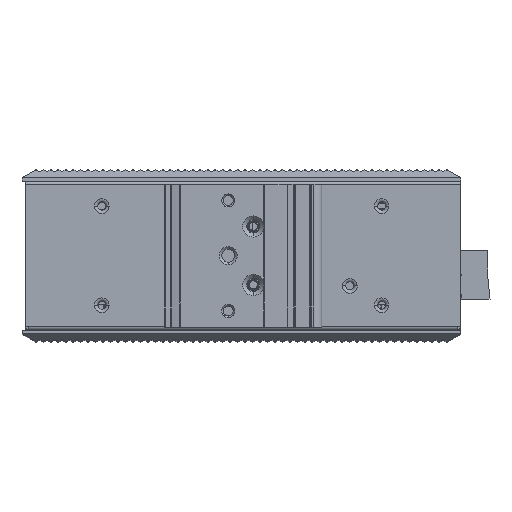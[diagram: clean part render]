
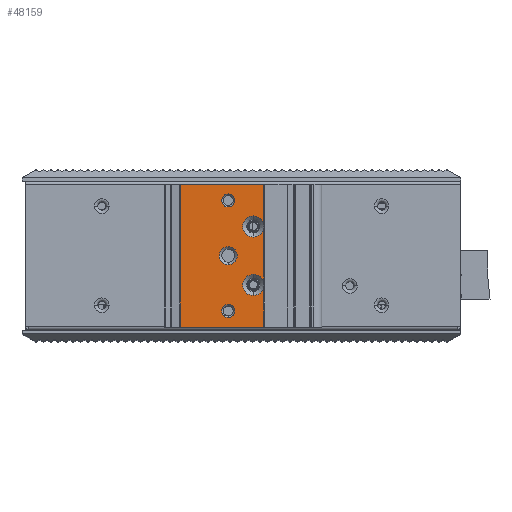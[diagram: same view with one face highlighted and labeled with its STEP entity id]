
A CAD part, top view. The second image highlights one B-rep face of the part: STEP entity #48159.
In plain terms, the highlighted planar face has unit normal (0, 0, 1).
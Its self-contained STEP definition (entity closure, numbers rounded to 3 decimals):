
#46836=DIRECTION('',(1.,0.,0.));
#46837=VECTOR('',#46836,25.635);
#46838=CARTESIAN_POINT('',(-19.605,-0.1,48.7));
#46839=LINE('',#46838,#46837);
#47051=CARTESIAN_POINT('',(2.83,30.9,48.7));
#47052=DIRECTION('',(0.,0.,1.));
#47053=DIRECTION('',(0.985,0.175,0.));
#47054=AXIS2_PLACEMENT_3D('',#47051,#47052,#47053);
#47056=CARTESIAN_POINT('',(2.83,30.9,48.7));
#47057=DIRECTION('',(0.,0.,1.));
#47058=DIRECTION('',(0.,1.,0.));
#47059=AXIS2_PLACEMENT_3D('',#47056,#47057,#47058);
#47061=CARTESIAN_POINT('',(2.83,30.9,48.7));
#47062=DIRECTION('',(0.,0.,1.));
#47063=DIRECTION('',(0.,-1.,0.));
#47064=AXIS2_PLACEMENT_3D('',#47061,#47062,#47063);
#47066=CARTESIAN_POINT('',(2.83,12.9,48.7));
#47067=DIRECTION('',(0.,0.,1.));
#47068=DIRECTION('',(0.985,0.175,0.));
#47069=AXIS2_PLACEMENT_3D('',#47066,#47067,#47068);
#47071=CARTESIAN_POINT('',(2.83,12.9,48.7));
#47072=DIRECTION('',(0.,0.,1.));
#47073=DIRECTION('',(0.,1.,0.));
#47074=AXIS2_PLACEMENT_3D('',#47071,#47072,#47073);
#47076=CARTESIAN_POINT('',(2.83,12.9,48.7));
#47077=DIRECTION('',(0.,0.,1.));
#47078=DIRECTION('',(0.,-1.,0.));
#47079=AXIS2_PLACEMENT_3D('',#47076,#47077,#47078);
#47081=DIRECTION('',(1.,0.,0.));
#47082=VECTOR('',#47081,25.636);
#47083=CARTESIAN_POINT('',(-19.606,43.9,48.7));
#47084=LINE('',#47083,#47082);
#47085=CARTESIAN_POINT('',(-4.87,21.9,48.7));
#47086=DIRECTION('',(0.,0.,1.));
#47087=DIRECTION('',(0.,-1.,0.));
#47088=AXIS2_PLACEMENT_3D('',#47085,#47086,#47087);
#47090=CARTESIAN_POINT('',(-4.87,21.9,48.7));
#47091=DIRECTION('',(0.,0.,1.));
#47092=DIRECTION('',(0.,1.,0.));
#47093=AXIS2_PLACEMENT_3D('',#47090,#47091,#47092);
#47095=CARTESIAN_POINT('',(-4.87,4.9,48.7));
#47096=DIRECTION('',(0.,0.,1.));
#47097=DIRECTION('',(0.,-1.,0.));
#47098=AXIS2_PLACEMENT_3D('',#47095,#47096,#47097);
#47100=CARTESIAN_POINT('',(-4.87,4.9,48.7));
#47101=DIRECTION('',(0.,0.,1.));
#47102=DIRECTION('',(0.,1.,0.));
#47103=AXIS2_PLACEMENT_3D('',#47100,#47101,#47102);
#47105=CARTESIAN_POINT('',(-4.87,38.9,48.7));
#47106=DIRECTION('',(0.,0.,1.));
#47107=DIRECTION('',(0.,-1.,0.));
#47108=AXIS2_PLACEMENT_3D('',#47105,#47106,#47107);
#47110=CARTESIAN_POINT('',(-4.87,38.9,48.7));
#47111=DIRECTION('',(0.,0.,1.));
#47112=DIRECTION('',(0.,1.,0.));
#47113=AXIS2_PLACEMENT_3D('',#47110,#47111,#47112);
#47128=DIRECTION('',(0.,1.,0.));
#47129=VECTOR('',#47128,16.864);
#47130=CARTESIAN_POINT('',(6.03,13.468,48.7));
#47131=LINE('',#47130,#47129);
#47146=DIRECTION('',(0.,1.,0.));
#47147=VECTOR('',#47146,12.432);
#47148=CARTESIAN_POINT('',(6.03,31.468,48.7));
#47149=LINE('',#47148,#47147);
#47154=DIRECTION('',(0.,1.,0.));
#47155=VECTOR('',#47154,12.432);
#47156=CARTESIAN_POINT('',(6.03,-0.1,48.7));
#47157=LINE('',#47156,#47155);
#47383=DIRECTION('',(0.,-1.,0.));
#47384=VECTOR('',#47383,44.);
#47385=CARTESIAN_POINT('',(-19.606,43.9,48.7));
#47386=LINE('',#47385,#47384);
#47746=CARTESIAN_POINT('',(-19.605,-0.1,48.7));
#47747=CARTESIAN_POINT('',(6.03,-0.1,48.7));
#47748=VERTEX_POINT('',#47746);
#47749=VERTEX_POINT('',#47747);
#47839=CARTESIAN_POINT('',(6.03,31.468,48.7));
#47840=CARTESIAN_POINT('',(2.83,34.15,48.7));
#47841=VERTEX_POINT('',#47839);
#47842=VERTEX_POINT('',#47840);
#47843=CARTESIAN_POINT('',(2.83,27.65,48.7));
#47844=VERTEX_POINT('',#47843);
#47845=CARTESIAN_POINT('',(6.03,30.332,48.7));
#47846=VERTEX_POINT('',#47845);
#47847=CARTESIAN_POINT('',(6.03,13.468,48.7));
#47848=VERTEX_POINT('',#47847);
#47849=CARTESIAN_POINT('',(2.83,16.15,48.7));
#47850=VERTEX_POINT('',#47849);
#47851=CARTESIAN_POINT('',(2.83,9.65,48.7));
#47852=VERTEX_POINT('',#47851);
#47853=CARTESIAN_POINT('',(6.03,12.332,48.7));
#47854=VERTEX_POINT('',#47853);
#47855=CARTESIAN_POINT('',(-19.606,43.9,48.7));
#47856=VERTEX_POINT('',#47855);
#47857=CARTESIAN_POINT('',(6.03,43.9,48.7));
#47858=VERTEX_POINT('',#47857);
#47859=CARTESIAN_POINT('',(-4.87,19.15,48.7));
#47860=CARTESIAN_POINT('',(-4.87,24.65,48.7));
#47861=VERTEX_POINT('',#47859);
#47862=VERTEX_POINT('',#47860);
#47863=CARTESIAN_POINT('',(-4.87,2.9,48.7));
#47864=CARTESIAN_POINT('',(-4.87,6.9,48.7));
#47865=VERTEX_POINT('',#47863);
#47866=VERTEX_POINT('',#47864);
#47867=CARTESIAN_POINT('',(-4.87,36.9,48.7));
#47868=CARTESIAN_POINT('',(-4.87,40.9,48.7));
#47869=VERTEX_POINT('',#47867);
#47870=VERTEX_POINT('',#47868);
#48111=CARTESIAN_POINT('',(6.23,48.3,48.7));
#48112=DIRECTION('',(0.,0.,-1.));
#48113=DIRECTION('',(-1.,0.,0.));
#48114=AXIS2_PLACEMENT_3D('',#48111,#48112,#48113);
#48115=PLANE('',#48114);
#48117=ORIENTED_EDGE('',*,*,#48116,.T.);
#48119=ORIENTED_EDGE('',*,*,#48118,.T.);
#48121=ORIENTED_EDGE('',*,*,#48120,.T.);
#48123=ORIENTED_EDGE('',*,*,#48122,.F.);
#48125=ORIENTED_EDGE('',*,*,#48124,.T.);
#48127=ORIENTED_EDGE('',*,*,#48126,.T.);
#48129=ORIENTED_EDGE('',*,*,#48128,.T.);
#48131=ORIENTED_EDGE('',*,*,#48130,.F.);
#48132=ORIENTED_EDGE('',*,*,#48014,.F.);
#48134=ORIENTED_EDGE('',*,*,#48133,.F.);
#48136=ORIENTED_EDGE('',*,*,#48135,.T.);
#48138=ORIENTED_EDGE('',*,*,#48137,.F.);
#48139=EDGE_LOOP('',(#48117,#48119,#48121,#48123,#48125,#48127,#48129,#48131,
#48132,#48134,#48136,#48138));
#48140=FACE_OUTER_BOUND('',#48139,.F.);
#48142=ORIENTED_EDGE('',*,*,#48141,.T.);
#48144=ORIENTED_EDGE('',*,*,#48143,.T.);
#48145=EDGE_LOOP('',(#48142,#48144));
#48146=FACE_BOUND('',#48145,.F.);
#48148=ORIENTED_EDGE('',*,*,#48147,.T.);
#48150=ORIENTED_EDGE('',*,*,#48149,.T.);
#48151=EDGE_LOOP('',(#48148,#48150));
#48152=FACE_BOUND('',#48151,.F.);
#48154=ORIENTED_EDGE('',*,*,#48153,.T.);
#48156=ORIENTED_EDGE('',*,*,#48155,.T.);
#48157=EDGE_LOOP('',(#48154,#48156));
#48158=FACE_BOUND('',#48157,.F.);
#48159=ADVANCED_FACE('',(#48140,#48146,#48152,#48158),#48115,.F.);
#47055=CIRCLE('',#47054,3.25);
#47060=CIRCLE('',#47059,3.25);
#47065=CIRCLE('',#47064,3.25);
#47070=CIRCLE('',#47069,3.25);
#47075=CIRCLE('',#47074,3.25);
#47080=CIRCLE('',#47079,3.25);
#47089=CIRCLE('',#47088,2.75);
#47094=CIRCLE('',#47093,2.75);
#47099=CIRCLE('',#47098,2.);
#47104=CIRCLE('',#47103,2.);
#47109=CIRCLE('',#47108,2.);
#47114=CIRCLE('',#47113,2.);
#48014=EDGE_CURVE('',#47748,#47749,#46839,.T.);
#48116=EDGE_CURVE('',#47841,#47842,#47055,.T.);
#48118=EDGE_CURVE('',#47842,#47844,#47060,.T.);
#48120=EDGE_CURVE('',#47844,#47846,#47065,.T.);
#48122=EDGE_CURVE('',#47848,#47846,#47131,.T.);
#48124=EDGE_CURVE('',#47848,#47850,#47070,.T.);
#48126=EDGE_CURVE('',#47850,#47852,#47075,.T.);
#48128=EDGE_CURVE('',#47852,#47854,#47080,.T.);
#48130=EDGE_CURVE('',#47749,#47854,#47157,.T.);
#48133=EDGE_CURVE('',#47856,#47748,#47386,.T.);
#48135=EDGE_CURVE('',#47856,#47858,#47084,.T.);
#48137=EDGE_CURVE('',#47841,#47858,#47149,.T.);
#48141=EDGE_CURVE('',#47861,#47862,#47089,.T.);
#48143=EDGE_CURVE('',#47862,#47861,#47094,.T.);
#48147=EDGE_CURVE('',#47865,#47866,#47099,.T.);
#48149=EDGE_CURVE('',#47866,#47865,#47104,.T.);
#48153=EDGE_CURVE('',#47869,#47870,#47109,.T.);
#48155=EDGE_CURVE('',#47870,#47869,#47114,.T.);
